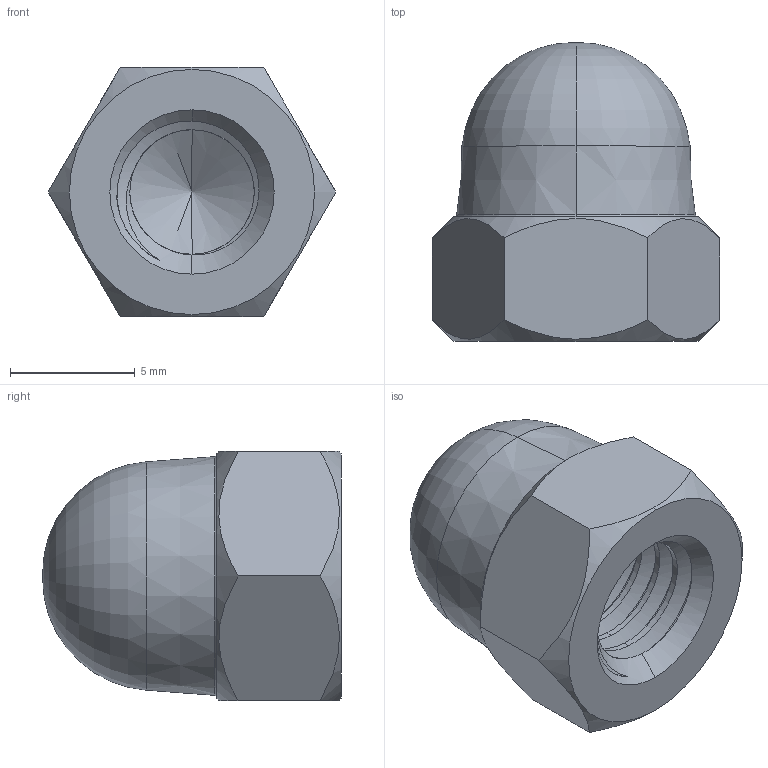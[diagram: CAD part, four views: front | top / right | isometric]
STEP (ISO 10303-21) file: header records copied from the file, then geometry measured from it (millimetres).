
FILE_DESCRIPTION (( 'STEP AP203' ), '1' );
FILE_NAME ('TAN_BAU_M6.STEP', '2026-08-24T08:28:46', ( '' ), ( '' ), 'SwSTEP 2.0', 'SolidWorks 2020', '' );
FILE_SCHEMA (( 'CONFIG_CONTROL_DESIGN' ));
Length unit declared in the file: millimetre
Products named in the file (1): TAN_BAU_M6
Bounding box: 11.55 x 12 x 10 mm (x, y, z)
Volume: 585.4 mm3; surface area: 679.1 mm2
Topology: 1 solids, 1 shells, 40 faces, 105 edges, 67 vertices
Faces by surface type: cylinder 13, cone 10, plane 10, torus 4, bspline 3
Entity records: 2541 total; most frequent: CARTESIAN_POINT 1605, ORIENTED_EDGE 206, DIRECTION 151, EDGE_CURVE 103, VERTEX_POINT 67, AXIS2_PLACEMENT_3D 59, EDGE_LOOP 42, FACE_OUTER_BOUND 40
